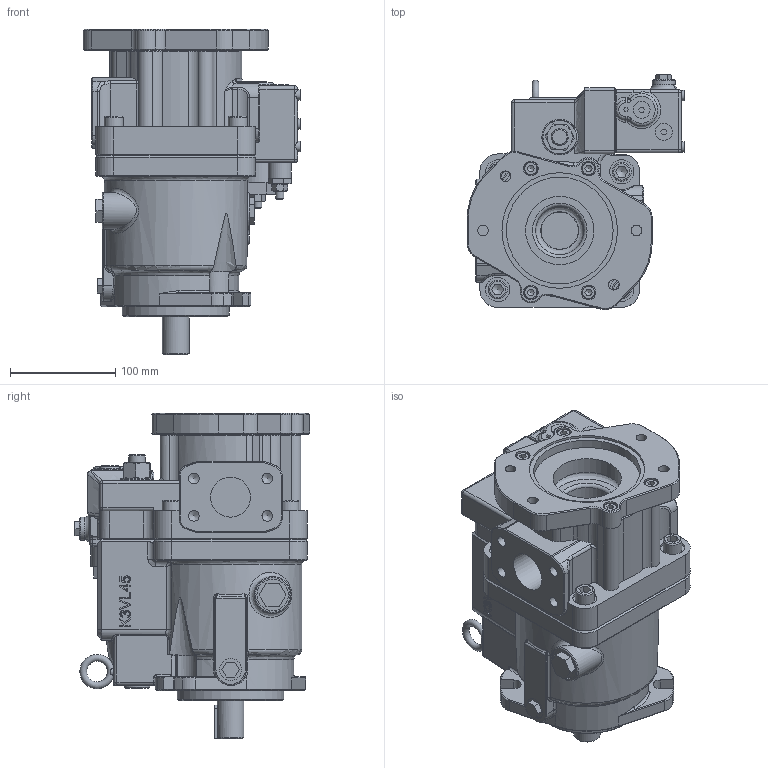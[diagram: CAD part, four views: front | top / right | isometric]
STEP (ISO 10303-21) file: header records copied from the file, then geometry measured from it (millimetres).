
FILE_DESCRIPTION((''),'2;1');
FILE_NAME('I:\3D Step files\K3V\K3VL45B 1BBRKM P0.stp','2009-06-10T16:41:29',('mnorman'),(''),'Autodesk Inventor 2010','Autodesk Inventor 2010','');
FILE_SCHEMA(('AUTOMOTIVE_DESIGN { 1 0 10303 214 1 1 1 1 }'));
Length unit declared in the file: millimetre
Products named in the file (1): Part1
Bounding box: 207 x 223.91 x 310 mm (x, y, z)
Volume: 5220951.3 mm3; surface area: 370301.4 mm2
Topology: 28 solids, 28 shells, 1234 faces, 2928 edges, 1794 vertices
Faces by surface type: plane 533, cylinder 262, bspline 241, cone 147, torus 42, sphere 9
Full cylindrical faces by diameter (mm): 6 x4, 6.5 x4, 8 x9, 9 x2, 10 x4, 11 x4, 12 x4, 13 x4, 14 x2, 16 x3, 18 x4, 21 x1, 22 x2, 22.177 x1, 24 x1, 25 x1, 25.4 x1, 30 x3, 32 x1, 35.5 x1, 36 x1, 38 x1, 46 x1, 65 x1, 75 x1, 82.55 x2, 90 x2, 101.6 x2, 105 x1, 110 x1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
Entity records: 40626 total; most frequent: CARTESIAN_POINT 13652, ORIENTED_EDGE 5246, DIRECTION 5091, EDGE_CURVE 2623, AXIS2_PLACEMENT_3D 1912, VERTEX_POINT 1697, EDGE_LOOP 1518, VECTOR 1267
